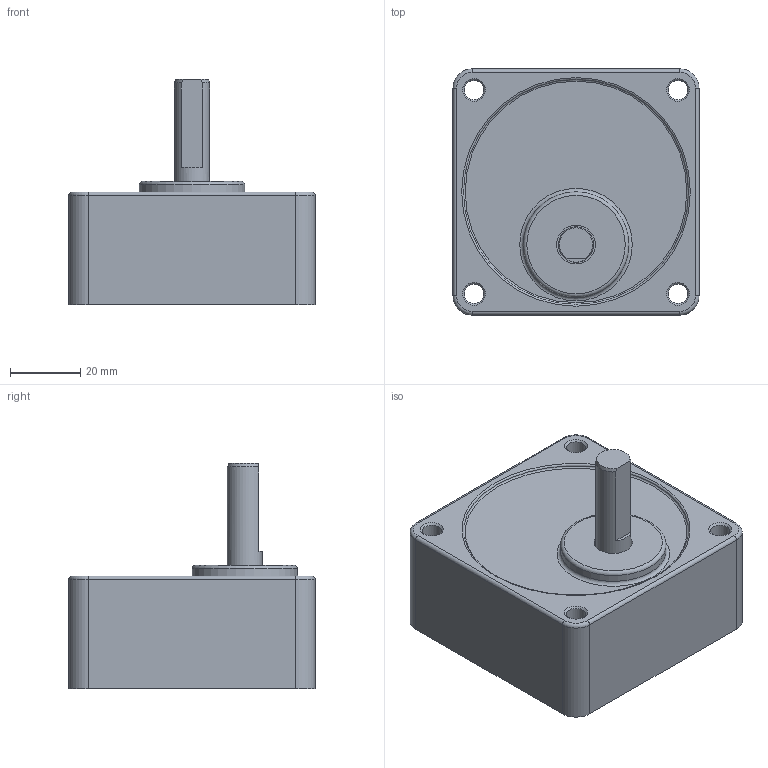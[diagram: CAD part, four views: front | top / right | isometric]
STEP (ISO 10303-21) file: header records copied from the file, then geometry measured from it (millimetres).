
FILE_DESCRIPTION((''),'2;1');
FILE_NAME('D:\STP파일\GEAR HEAD\15W\S7DA3~18.stp','2013-05-20T19:07:49',('leebh'),(''),'Autodesk Inventor 2011','Autodesk Inventor 2011','');
FILE_SCHEMA(('AUTOMOTIVE_DESIGN { 1 0 10303 214 1 1 1 1 }'));
Length unit declared in the file: millimetre
Products named in the file (1): S9I90G-T1
Bounding box: 70 x 70 x 64 mm (x, y, z)
Volume: 137954.5 mm3; surface area: 23173.6 mm2
Topology: 1 solids, 1 shells, 44 faces, 93 edges, 57 vertices
Faces by surface type: cylinder 17, plane 14, torus 8, cone 5
Full cylindrical faces by diameter (mm): 5.5 x4, 7 x1, 10 x1, 11 x1, 30 x1, 64 x1
Entity records: 1132 total; most frequent: DIRECTION 212, CARTESIAN_POINT 180, ORIENTED_EDGE 150, AXIS2_PLACEMENT_3D 94, EDGE_CURVE 75, EDGE_LOOP 75, VERTEX_POINT 56, CIRCLE 49
